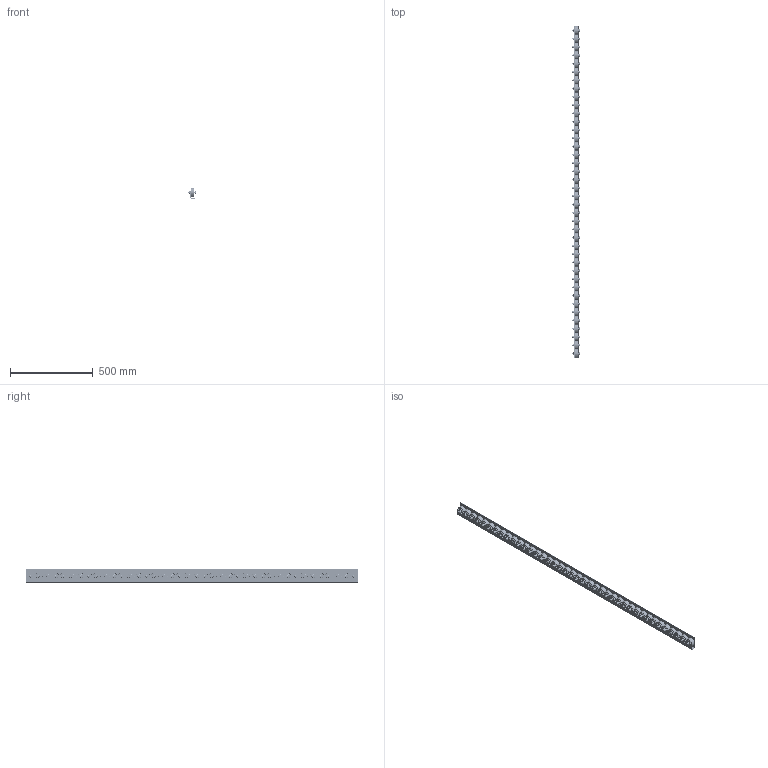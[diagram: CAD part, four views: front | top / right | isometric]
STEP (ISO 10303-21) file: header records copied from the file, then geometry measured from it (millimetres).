
FILE_DESCRIPTION( ( 'Unknown' ), '1' );
FILE_NAME( 'D:/Construktor/Listwy rolkowe 2015/Listwa T630GL/Listwa T630GL.stp', 'Unknown', ( 'Unknown' ), ( 'Unknown' ), 'PSStep 17.0.49', 'Unknown', ' ' );
FILE_SCHEMA( ( 'AUTOMOTIVE_DESIGN { 1 0 10303 214 1 1 1 1 }' ) );
Length unit declared in the file: millimetre
Products named in the file (9): Rolka T 630GL; Rolka; Guma; Assem1; DIN_931_M8x35; DIN_931_M8x35-oa0; DIN_931_M8x35-oa1; Nut_DIN_980_M_M8_v10.50; Ceownik T630GL
Assembly tree (123 placements, depth 3):
  Assem1
    DIN_931_M8x35  x38
    DIN_931_M8x35-oa0
    DIN_931_M8x35-oa1
    Nut_DIN_980_M_M8_v10.50  x40
    Ceownik T630GL
    Rolka T 630GL  x40
      Rolka
      Guma
Bounding box: 45.3 x 2003.96 x 80 mm (x, y, z)
Volume: 2091022 mm3; surface area: 1297926.5 mm2
Topology: 161 solids, 161 shells, 3572 faces, 7750 edges, 5060 vertices
Faces by surface type: plane 1370, cylinder 1202, cone 600, torus 400
Full cylindrical faces by diameter (mm): 6.466 x40, 6.647 x40, 6.697 x40, 8 x120, 8.2 x398, 8.4 x40, 11.63 x40, 12 x80, 12.5 x40, 30.068 x80, 46.125 x160, 50 x80, 54 x40
Entity records: 22562 total; most frequent: DIRECTION 3198, CARTESIAN_POINT 3028, ORIENTED_EDGE 2060, EDGE_LOOP 1806, AXIS2_PLACEMENT_3D 1564, EDGE_CURVE 1030, FACE_OUTER_BOUND 977, VERTEX_POINT 970
